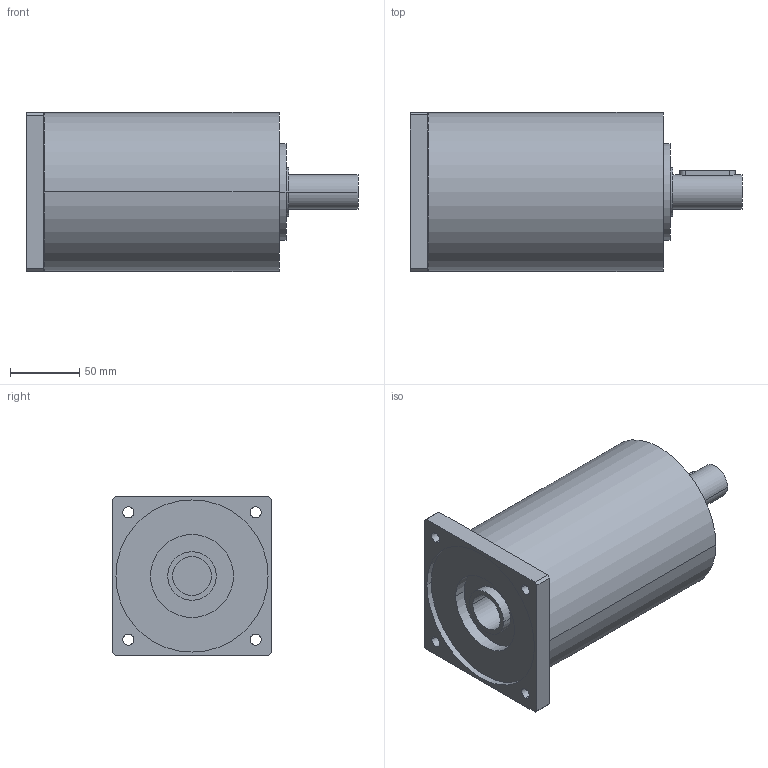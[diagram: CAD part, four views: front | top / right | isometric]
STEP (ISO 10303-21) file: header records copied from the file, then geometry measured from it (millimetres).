
FILE_DESCRIPTION(('CoCreate Modeling STEP Export'),'2;1');
FILE_NAME('GPR125_ig-9-12-16-20-28-35_25_B14_28_P13.stp','2014-08-26T14:11:41',(''),(''),'CoCreate Modeling STEP processor for AP214 (Solid Model)','CoCreate Modeling 16.00C 25-Feb-2009 (C) Parametric Technology GmbH','');
FILE_SCHEMA(('AUTOMOTIVE_DESIGN { 1 0 10303 214 1 1 1 1 }'));
Length unit declared in the file: millimetre
Products named in the file (2): GPR125_ig-9-12-16-20-28-35_25_B14_28_P13
Assembly tree (1 placements, depth 2):
  GPR125_ig-9-12-16-20-28-35_25_B14_28_P13
    GPR125_ig-9-12-16-20-28-35_25_B14_28_P13
Bounding box: 240 x 115 x 115 mm (x, y, z)
Volume: 1881948.4 mm3; surface area: 111891.2 mm2
Topology: 1 solids, 1 shells, 65 faces, 180 edges, 128 vertices
Faces by surface type: cylinder 40, plane 21, cone 4
Entity records: 1853 total; most frequent: ORIENTED_EDGE 356, CARTESIAN_POINT 351, DIRECTION 248, EDGE_CURVE 178, VERTEX_POINT 128, AXIS2_PLACEMENT_3D 93, EDGE_LOOP 86, FACE_OUTER_BOUND 65
